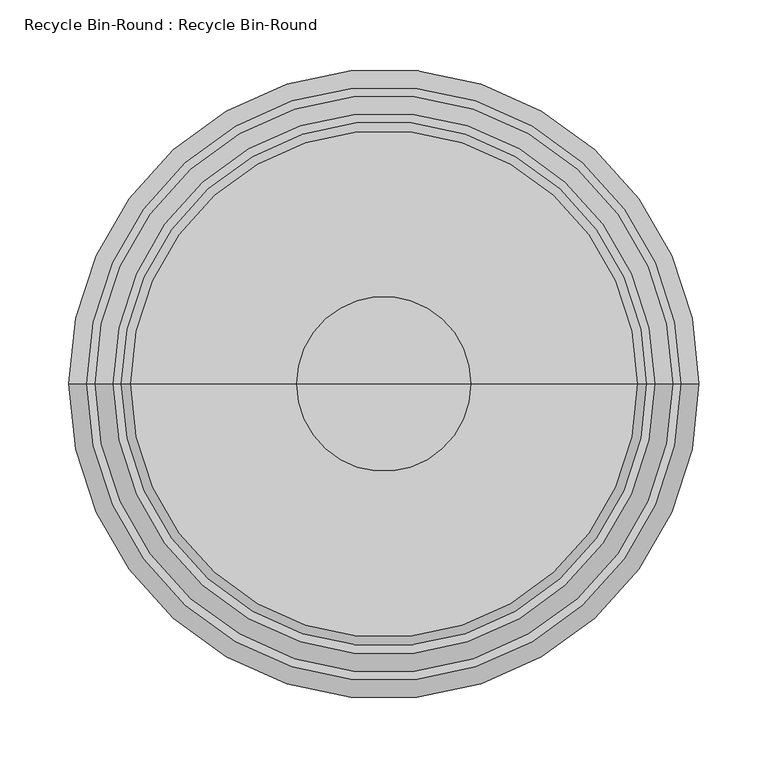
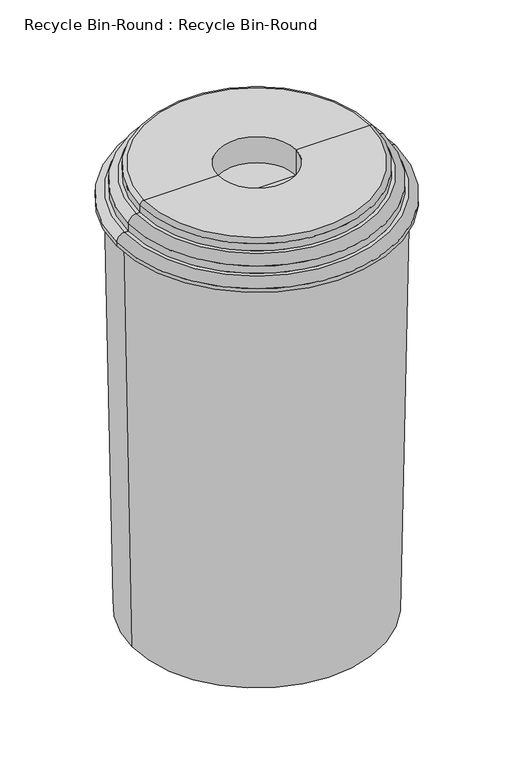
"""IFC4 building model written with IfcOpenShell, lengths in millimetres: proxy geometry, Recycle Bin-Round : Recycle Bin-Round."""

from ifc_helpers import new_model, si_unit, point, frame, origin, place, context, project, spatial, polyline, circle_curve, ellipse_curve, trimmed, source, transform, mapped, element, save
from ifc_brep_helpers import plane_surface, cylinder_surface, revolved_surface, advanced_brep


def recycle_bin_round_recycle_bin_round_6e7ed866(model_context):
    return source(origin(), model_context, "Body", "AdvancedBrep", [
        advanced_brep(
        [(-215.9, 0.0, 698.5), (215.9, 0.0, 698.5), (-203.2, 0.0, 0.0), (203.2, 0.0, 0.0)],
        [
            (0, 1, circle_curve(frame((0.0, 0.0, 698.5), z_axis=(0.0, 0.0, 1.0), x_axis=(-1.0, 0.0, 0.0)), 215.9)),
            (1, 0, circle_curve(frame((0.0, 0.0, 698.5), z_axis=(0.0, 0.0, 1.0), x_axis=(1.0, 0.0, 0.0)), 215.9)),
            (2, 3, circle_curve(frame((0.0, 0.0, 0.0), z_axis=(0.0, 0.0, -1.0), x_axis=(1.0, 0.0, 0.0)), 203.2)),
            (3, 2, circle_curve(frame((0.0, 0.0, 0.0), z_axis=(0.0, 0.0, -1.0), x_axis=(-1.0, 0.0, 0.0)), 203.2)),
            (3, 1),
            (0, 2),
        ],
        [
            plane_surface(frame((0.0, 0.0, 698.5), z_axis=(0.0, 0.0, 1.0), x_axis=(0.0, -1.0, 0.0))),
            plane_surface(frame((0.0, 0.0, 0.0), z_axis=(0.0, 0.0, -1.0), x_axis=(0.0, -1.0, 0.0))),
            revolved_surface(polyline([(203.2, 0.0, 0.0), (215.9, 0.0, 698.5)]), (0.0, 0.0, -11176.0), (0.0, 0.0, 1.0)),
            revolved_surface(polyline([(-203.2, 0.0, 0.0), (-215.9, 0.0, 698.5)]), (0.0, 0.0, -11176.0), (0.0, 0.0, 1.0)),
        ],
        [
            (0, [[1, 2]]),
            (1, [[3, 4]]),
            (2, [[-4, 5, -1, 6]]),
            (3, [[-3, -6, -2, -5]]),
        ],
    ),
        advanced_brep(
        [(-228.6, 0.0, 704.85), (228.6, 0.0, 704.85), (228.6, 0.0, 698.5), (-228.6, 0.0, 698.5), (-215.9, 0.0, 717.55), (215.9, 0.0, 717.55), (-209.55, 0.0, 717.55), (209.55, 0.0, 717.55), (-209.55, 0.0, 730.25), (209.55, 0.0, 730.25), (-196.85, 0.0, 742.95), (196.85, 0.0, 742.95), (-190.5, 0.0, 742.95), (190.5, 0.0, 742.95), (-190.5, 0.0, 755.65), (190.5, 0.0, 755.65), (-184.15, 0.0, 762.0), (184.15, 0.0, 762.0), (-63.5, 0.0, 762.0), (63.5, 0.0, 762.0), (-63.5, 0.0, 717.55), (63.5, 0.0, 717.55), (0.0, 0.0, 717.55), (0.0, 0.0, 698.5)],
        [
            (0, 1, circle_curve(frame((0.0, 0.0, 704.85), z_axis=(0.0, 0.0, -1.0), x_axis=(1.0, 0.0, 0.0)), 228.6)),
            (1, 2),
            (2, 3, circle_curve(frame((0.0, 0.0, 698.5), z_axis=(0.0, 0.0, 1.0), x_axis=(1.0, 0.0, 0.0)), 228.6)),
            (3, 0),
            (1, 0, circle_curve(frame((0.0, 0.0, 704.85), z_axis=(0.0, 0.0, -1.0), x_axis=(1.0, 0.0, 0.0)), 228.6)),
            (3, 2, circle_curve(frame((0.0, 0.0, 698.5), z_axis=(0.0, 0.0, 1.0), x_axis=(1.0, 0.0, 0.0)), 228.6)),
            (4, 5, circle_curve(frame((0.0, 0.0, 717.55), z_axis=(0.0, 0.0, -1.0), x_axis=(1.0, 0.0, 0.0)), 215.9)),
            (5, 1, circle_curve(frame((215.9, 0.0, 704.85), z_axis=(0.0, 1.0, 0.0), x_axis=(1.0, 0.0, 0.0)), 12.7)),
            (0, 4, circle_curve(frame((-215.9, 0.0, 704.85), z_axis=(0.0, 1.0, 0.0), x_axis=(-1.0, 0.0, 0.0)), 12.7)),
            (5, 4, circle_curve(frame((0.0, 0.0, 717.55), z_axis=(0.0, 0.0, -1.0), x_axis=(1.0, 0.0, 0.0)), 215.9)),
            (6, 7, circle_curve(frame((0.0, 0.0, 717.55), z_axis=(0.0, 0.0, -1.0), x_axis=(1.0, 0.0, 0.0)), 209.55)),
            (7, 5),
            (4, 6),
            (7, 6, circle_curve(frame((0.0, 0.0, 717.55), z_axis=(0.0, 0.0, -1.0), x_axis=(1.0, 0.0, 0.0)), 209.55)),
            (8, 9, circle_curve(frame((0.0, 0.0, 730.25), z_axis=(0.0, 0.0, -1.0), x_axis=(1.0, 0.0, 0.0)), 209.55)),
            (9, 7),
            (6, 8),
            (9, 8, circle_curve(frame((0.0, 0.0, 730.25), z_axis=(0.0, 0.0, -1.0), x_axis=(1.0, 0.0, 0.0)), 209.55)),
            (10, 11, circle_curve(frame((0.0, 0.0, 742.95), z_axis=(0.0, 0.0, -1.0), x_axis=(1.0, 0.0, 0.0)), 196.85)),
            (11, 9, circle_curve(frame((196.85, 0.0, 730.25), z_axis=(0.0, 1.0, 0.0), x_axis=(1.0, 0.0, 0.0)), 12.7)),
            (8, 10, circle_curve(frame((-196.85, 0.0, 730.25), z_axis=(0.0, 1.0, 0.0), x_axis=(-1.0, 0.0, 0.0)), 12.7)),
            (11, 10, circle_curve(frame((0.0, 0.0, 742.95), z_axis=(0.0, 0.0, -1.0), x_axis=(1.0, 0.0, 0.0)), 196.85)),
            (12, 13, circle_curve(frame((0.0, 0.0, 742.95), z_axis=(0.0, 0.0, -1.0), x_axis=(1.0, 0.0, 0.0)), 190.5)),
            (13, 11),
            (10, 12),
            (13, 12, circle_curve(frame((0.0, 0.0, 742.95), z_axis=(0.0, 0.0, -1.0), x_axis=(1.0, 0.0, 0.0)), 190.5)),
            (14, 15, circle_curve(frame((0.0, 0.0, 755.65), z_axis=(0.0, 0.0, -1.0), x_axis=(1.0, 0.0, 0.0)), 190.5)),
            (15, 13),
            (12, 14),
            (15, 14, circle_curve(frame((0.0, 0.0, 755.65), z_axis=(0.0, 0.0, -1.0), x_axis=(1.0, 0.0, 0.0)), 190.5)),
            (16, 17, circle_curve(frame((0.0, 0.0, 762.0), z_axis=(0.0, 0.0, -1.0), x_axis=(1.0, 0.0, 0.0)), 184.15)),
            (17, 15, circle_curve(frame((184.15, 0.0, 755.65), z_axis=(0.0, 1.0, 0.0), x_axis=(1.0, 0.0, 0.0)), 6.35)),
            (14, 16, circle_curve(frame((-184.15, 0.0, 755.65), z_axis=(0.0, 1.0, 0.0), x_axis=(-1.0, 0.0, 0.0)), 6.35)),
            (17, 16, circle_curve(frame((0.0, 0.0, 762.0), z_axis=(0.0, 0.0, -1.0), x_axis=(1.0, 0.0, 0.0)), 184.15)),
            (18, 19, circle_curve(frame((0.0, 0.0, 762.0), z_axis=(0.0, 0.0, -1.0), x_axis=(1.0, 0.0, 0.0)), 63.5)),
            (19, 17),
            (16, 18),
            (19, 18, circle_curve(frame((0.0, 0.0, 762.0), z_axis=(0.0, 0.0, -1.0), x_axis=(1.0, 0.0, 0.0)), 63.5)),
            (20, 21, circle_curve(frame((0.0, 0.0, 717.55), z_axis=(0.0, 0.0, -1.0), x_axis=(1.0, 0.0, 0.0)), 63.5)),
            (21, 19),
            (18, 20),
            (21, 20, circle_curve(frame((0.0, 0.0, 717.55), z_axis=(0.0, 0.0, -1.0), x_axis=(1.0, 0.0, 0.0)), 63.5)),
            (22, 21),
            (20, 22),
            (2, 23),
            (23, 3),
        ],
        [
            cylinder_surface(frame((0.0, 0.0, 698.5), z_axis=(0.0, 0.0, 1.0), x_axis=(1.0, 0.0, 0.0)), 228.6),
            revolved_surface(trimmed(ellipse_curve(frame((215.9, 0.0, 704.85), z_axis=(0.0, -1.0, 0.0), x_axis=(1.0, 0.0, 0.0)), 12.7, 12.7), [point((228.6, 0.0, 704.85))], [point((215.9, 0.0, 717.55))], True, "CARTESIAN"), (0.0, 0.0, 698.5), (0.0, 0.0, 1.0)),
            plane_surface(frame((0.0, 0.0, 717.55), z_axis=(0.0, 0.0, 1.0), x_axis=(1.0, 0.0, 0.0))),
            cylinder_surface(frame((0.0, 0.0, 698.5), z_axis=(0.0, 0.0, 1.0), x_axis=(1.0, 0.0, 0.0)), 209.55),
            revolved_surface(trimmed(ellipse_curve(frame((196.85, 0.0, 730.25), z_axis=(0.0, -1.0, 0.0), x_axis=(1.0, 0.0, 0.0)), 12.7, 12.7), [point((209.55, 0.0, 730.25))], [point((196.85, 0.0, 742.95))], True, "CARTESIAN"), (0.0, 0.0, 698.5), (0.0, 0.0, 1.0)),
            plane_surface(frame((0.0, 0.0, 742.95), z_axis=(0.0, 0.0, 1.0), x_axis=(1.0, 0.0, 0.0))),
            cylinder_surface(frame((0.0, 0.0, 698.5), z_axis=(0.0, 0.0, 1.0), x_axis=(1.0, 0.0, 0.0)), 190.5),
            revolved_surface(trimmed(ellipse_curve(frame((184.15, 0.0, 755.65), z_axis=(0.0, -1.0, 0.0), x_axis=(1.0, 0.0, 0.0)), 6.35, 6.35), [point((190.5, 0.0, 755.65))], [point((184.15, 0.0, 762.0))], True, "CARTESIAN"), (0.0, 0.0, 698.5), (0.0, 0.0, 1.0)),
            plane_surface(frame((0.0, 0.0, 762.0), z_axis=(0.0, 0.0, 1.0), x_axis=(1.0, 0.0, 0.0))),
            revolved_surface(polyline([(63.5, 0.0, 762.0), (63.5, 0.0, 717.55)]), (0.0, 0.0, 698.5), (0.0, 0.0, 1.0)),
            plane_surface(frame((0.0, 0.0, 698.5), z_axis=(0.0, 0.0, -1.0), x_axis=(1.0, 0.0, 0.0))),
        ],
        [
            (0, [[1, 2, 3, 4]]),
            (0, [[5, -4, 6, -2]]),
            (1, [[7, 8, -1, 9]]),
            (1, [[10, -9, -5, -8]]),
            (2, [[11, 12, -7, 13]]),
            (2, [[14, -13, -10, -12]]),
            (3, [[15, 16, -11, 17]]),
            (3, [[18, -17, -14, -16]]),
            (4, [[19, 20, -15, 21]]),
            (4, [[22, -21, -18, -20]]),
            (5, [[23, 24, -19, 25]]),
            (5, [[26, -25, -22, -24]]),
            (6, [[27, 28, -23, 29]]),
            (6, [[30, -29, -26, -28]]),
            (7, [[31, 32, -27, 33]]),
            (7, [[34, -33, -30, -32]]),
            (8, [[35, 36, -31, 37]]),
            (8, [[38, -37, -34, -36]]),
            (9, [[39, 40, -35, 41]]),
            (9, [[42, -41, -38, -40]]),
            (2, [[43, -39, 44]]),
            (2, [[-44, -42, -43]]),
            (10, [[-3, 45, 46]]),
            (10, [[-6, -46, -45]]),
        ],
    ),
    ])


if __name__ == "__main__":
    model = new_model("IFC4")
    model_context = context("Model", 3, world=origin())
    ifc_project = project(units=[si_unit("LENGTHUNIT", "METRE", prefix="MILLI")], contexts=[model_context])
    site = spatial("IfcSite", under=ifc_project)
    building = spatial("IfcBuilding", under=site)
    placement = place(None, origin())
    recycle_bin_round_recycle_bin_round_shape = recycle_bin_round_recycle_bin_round_6e7ed866(model_context)
    element("IfcBuildingElementProxy", 1, Name="Recycle Bin-Round : Recycle Bin-Round", ObjectType="Recycle Bin-Round : Recycle Bin-Round", at=placement, inside=building, context=model_context, shape_type="MappedRepresentation", body=[
        mapped(recycle_bin_round_recycle_bin_round_shape, transform((0.0, 0.0, 0.0), x_axis=(1.0, 0.0, 0.0), y_axis=(0.0, 1.0, 0.0), z_axis=(0.0, 0.0, 1.0))),
    ])
    save(model, "model.ifc")
